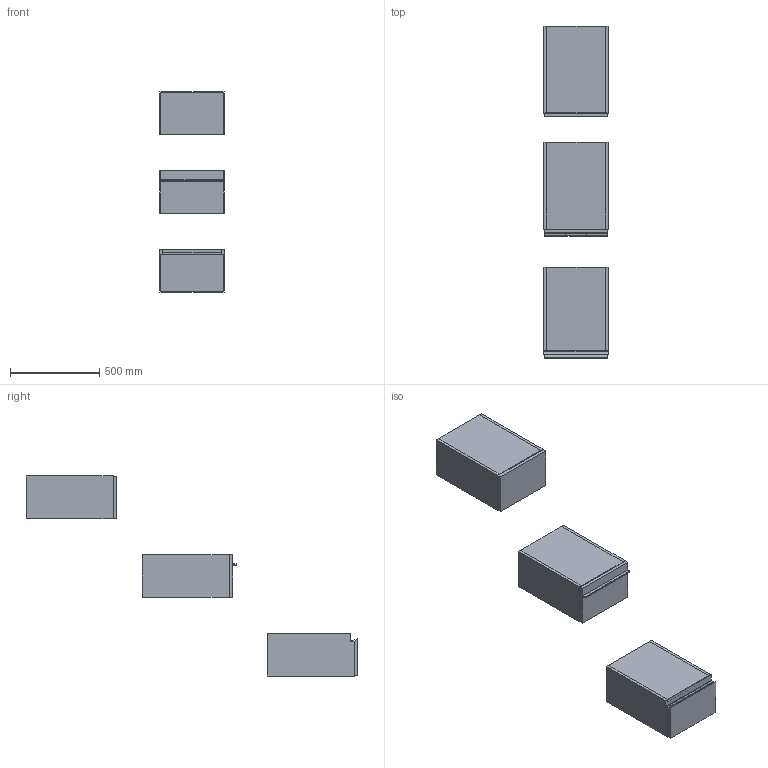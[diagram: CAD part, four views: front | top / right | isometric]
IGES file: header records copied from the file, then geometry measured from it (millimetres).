
Start section: Data from Parasolid IGES Translator 19.0.9, Copyright(c) 2006 Siemens PL M Software. All Rights Reserved.
Global section: file name: noorth-SI-H 24 D 51 W 36_8308.igs; native system: By Siemens PLM Incorporated; preprocessor: XPlus GENERIC/IGES 19.0.9; author: Noname; organization: Noname; date: 20200530.120502; units: metre
Bounding box: 360.01 x 1857.1 x 1120 mm (x, y, z)
Volume: 31698500.6 mm3; surface area: 4633619 mm2
Topology: 20 solids, 20 shells, 178 faces, 382 edges, 234 vertices
Faces by surface type: plane 134, extrusion 16, bspline 16, cylinder 12
